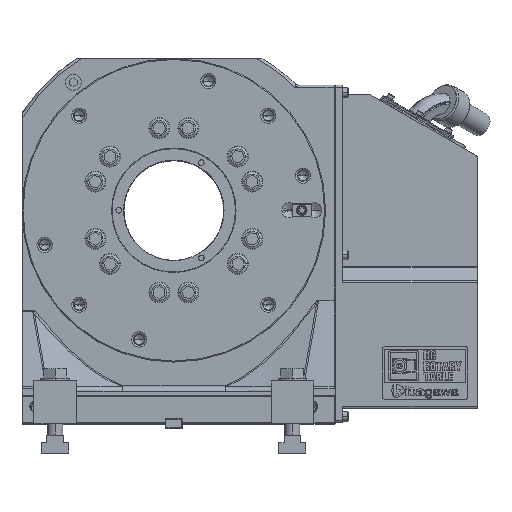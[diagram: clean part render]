
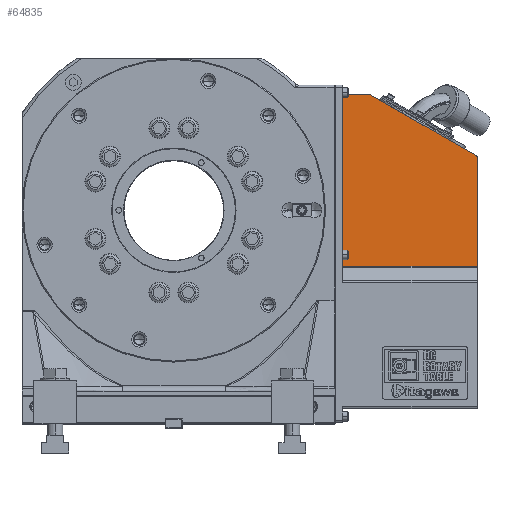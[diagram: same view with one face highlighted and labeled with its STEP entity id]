
A CAD part, top view. The second image highlights one B-rep face of the part: STEP entity #64835.
In plain terms, the highlighted planar face has unit normal (0, 0, 1).
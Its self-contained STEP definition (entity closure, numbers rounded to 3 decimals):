
#194 = ORIENTED_EDGE ( 'NONE', *, *, #3788, .T. ) ;
#1999 = VERTEX_POINT ( 'NONE', #68291 ) ;
#3788 = EDGE_CURVE ( 'NONE', #53959, #49502, #35661, .T. ) ;
#3792 = EDGE_CURVE ( 'NONE', #25669, #53959, #9587, .T. ) ;
#9587 = LINE ( 'NONE', #9874, #100289 ) ;
#9750 = VECTOR ( 'NONE', #101358, 1000. ) ;
#9874 = CARTESIAN_POINT ( 'NONE',  ( 142., 345.5, 42. ) ) ;
#10210 = EDGE_LOOP ( 'NONE', ( #78155, #47997, #25743, #194, #99720, #93909, #74476 ) ) ;
#11600 = LINE ( 'NONE', #65478, #78916 ) ;
#13382 = CARTESIAN_POINT ( 'NONE',  ( 142., 164.328, 42. ) ) ;
#16144 = CARTESIAN_POINT ( 'NONE',  ( 142., 345.5, 42. ) ) ;
#21219 = EDGE_CURVE ( 'NONE', #32836, #1999, #93304, .T. ) ;
#22395 = EDGE_CURVE ( 'NONE', #58927, #25669, #27204, .T. ) ;
#22769 = CARTESIAN_POINT ( 'NONE',  ( 0., 164.328, 42. ) ) ;
#25669 = VERTEX_POINT ( 'NONE', #74046 ) ;
#25743 = ORIENTED_EDGE ( 'NONE', *, *, #3792, .T. ) ;
#27204 = CIRCLE ( 'NONE', #88864, 2. ) ;
#27482 = DIRECTION ( 'NONE',  ( 0., -1., 0. ) ) ;
#30777 = CARTESIAN_POINT ( 'NONE',  ( 140., 279.343, 42. ) ) ;
#32836 = VERTEX_POINT ( 'NONE', #70706 ) ;
#33096 = LINE ( 'NONE', #13382, #9750 ) ;
#35661 = LINE ( 'NONE', #80134, #103053 ) ;
#39642 = DIRECTION ( 'NONE',  ( 0., 1., 0. ) ) ;
#44295 = DIRECTION ( 'NONE',  ( 0., 1., 0. ) ) ;
#45578 = CARTESIAN_POINT ( 'NONE',  ( 28.466, 343.5, 42. ) ) ;
#47929 = CARTESIAN_POINT ( 'NONE',  ( 142., 164.328, 42. ) ) ;
#47997 = ORIENTED_EDGE ( 'NONE', *, *, #22395, .T. ) ;
#48199 = VERTEX_POINT ( 'NONE', #47929 ) ;
#49502 = VERTEX_POINT ( 'NONE', #22769 ) ;
#50198 = EDGE_CURVE ( 'NONE', #32836, #48199, #101831, .T. ) ;
#53959 = VERTEX_POINT ( 'NONE', #71016 ) ;
#54435 = DIRECTION ( 'NONE',  ( 0., 1., 0. ) ) ;
#58927 = VERTEX_POINT ( 'NONE', #70962 ) ;
#64831 = FACE_OUTER_BOUND ( 'NONE', #10210, .T. ) ;
#64835 = ADVANCED_FACE ( 'NONE', ( #64831 ), #79184, .F. ) ;
#65119 = DIRECTION ( 'NONE',  ( 0.867, -0.499, 0. ) ) ;
#65478 = CARTESIAN_POINT ( 'NONE',  ( 29., 345.5, 42. ) ) ;
#68291 = CARTESIAN_POINT ( 'NONE',  ( 140.997, 281.077, 42. ) ) ;
#70706 = CARTESIAN_POINT ( 'NONE',  ( 142., 279.343, 42. ) ) ;
#70962 = CARTESIAN_POINT ( 'NONE',  ( 29.463, 345.234, 42. ) ) ;
#71016 = CARTESIAN_POINT ( 'NONE',  ( 0., 345.5, 42. ) ) ;
#71260 = EDGE_CURVE ( 'NONE', #49502, #48199, #33096, .T. ) ;
#74046 = CARTESIAN_POINT ( 'NONE',  ( 28.466, 345.5, 42. ) ) ;
#74476 = ORIENTED_EDGE ( 'NONE', *, *, #21219, .T. ) ;
#78155 = ORIENTED_EDGE ( 'NONE', *, *, #111195, .F. ) ;
#78439 = VECTOR ( 'NONE', #86398, 1000. ) ;
#78450 = AXIS2_PLACEMENT_3D ( 'NONE', #30777, #92284, #39642 ) ;
#78916 = VECTOR ( 'NONE', #65119, 1000. ) ;
#79184 = PLANE ( 'NONE',  #95570 ) ;
#80134 = CARTESIAN_POINT ( 'NONE',  ( 0., 345.5, 42. ) ) ;
#86398 = DIRECTION ( 'NONE',  ( 0., -1., 0. ) ) ;
#87998 = CARTESIAN_POINT ( 'NONE',  ( 142., 345.5, 42. ) ) ;
#88864 = AXIS2_PLACEMENT_3D ( 'NONE', #45578, #106953, #54435 ) ;
#92284 = DIRECTION ( 'NONE',  ( 0., 0., 1. ) ) ;
#93304 = CIRCLE ( 'NONE', #78450, 2. ) ;
#93909 = ORIENTED_EDGE ( 'NONE', *, *, #50198, .F. ) ;
#95570 = AXIS2_PLACEMENT_3D ( 'NONE', #87998, #96881, #44295 ) ;
#96881 = DIRECTION ( 'NONE',  ( 0., 0., -1. ) ) ;
#97835 = DIRECTION ( 'NONE',  ( -1., 0., 0. ) ) ;
#99720 = ORIENTED_EDGE ( 'NONE', *, *, #71260, .T. ) ;
#100289 = VECTOR ( 'NONE', #97835, 1000. ) ;
#101358 = DIRECTION ( 'NONE',  ( 1., 0., 0. ) ) ;
#101831 = LINE ( 'NONE', #16144, #78439 ) ;
#103053 = VECTOR ( 'NONE', #27482, 1000. ) ;
#106953 = DIRECTION ( 'NONE',  ( 0., 0., 1. ) ) ;
#111195 = EDGE_CURVE ( 'NONE', #58927, #1999, #11600, .T. ) ;
